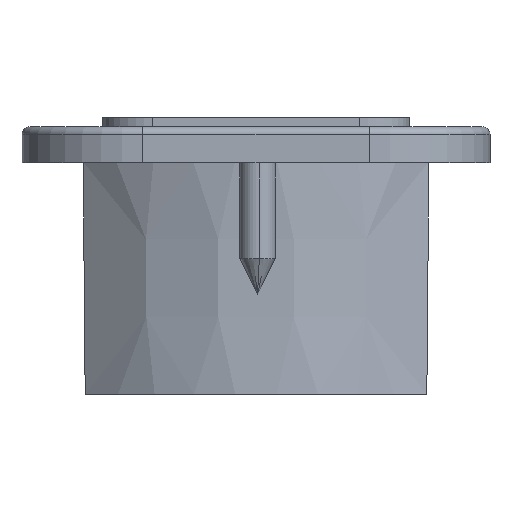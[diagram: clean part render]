
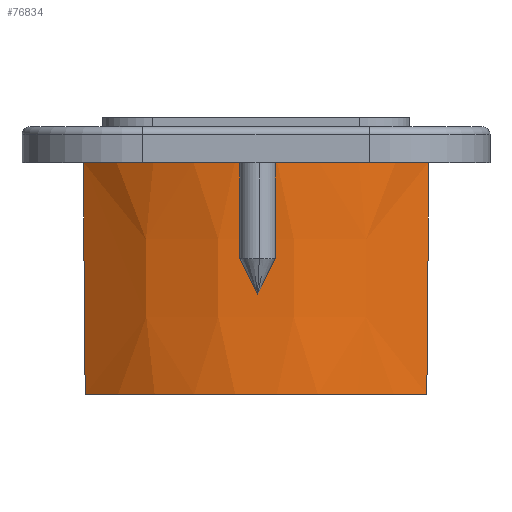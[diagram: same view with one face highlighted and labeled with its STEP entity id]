
A CAD part, front view. The second image highlights one B-rep face of the part: STEP entity #76834.
In plain terms, the highlighted conical face has half-angle 0.5 degrees and reference radius 25 mm.
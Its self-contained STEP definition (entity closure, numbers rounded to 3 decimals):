
#3816 = EDGE_CURVE ( 'NONE', #20802, #66061, #62521, .T. ) ;
#4052 = CARTESIAN_POINT ( 'NONE',  ( -16.974, -18.319, -20. ) ) ;
#4408 = CARTESIAN_POINT ( 'NONE',  ( 0., 0., 3.102 ) ) ;
#7648 = AXIS2_PLACEMENT_3D ( 'NONE', #39874, #27731, #77810 ) ;
#8864 = ORIENTED_EDGE ( 'NONE', *, *, #59384, .T. ) ;
#9732 = DIRECTION ( 'NONE',  ( -1., 0., 0. ) ) ;
#11463 = CARTESIAN_POINT ( 'NONE',  ( 17.117, -18.381, -3.599 ) ) ;
#11736 = CARTESIAN_POINT ( 'NONE',  ( 17.175, -18.407, 3.102 ) ) ;
#11923 = CARTESIAN_POINT ( 'NONE',  ( -17.058, -18.356, -10.3 ) ) ;
#12181 = CARTESIAN_POINT ( 'NONE',  ( -16.974, -18.319, -20. ) ) ;
#16272 = DIRECTION ( 'NONE',  ( 0., 0., 1. ) ) ;
#16768 = EDGE_LOOP ( 'NONE', ( #70253, #21231, #8864, #66836 ) ) ;
#20802 = VERTEX_POINT ( 'NONE', #51856 ) ;
#21231 = ORIENTED_EDGE ( 'NONE', *, *, #67603, .T. ) ;
#21692 = CONICAL_SURFACE ( 'NONE', #69023, 25., 0.009 ) ;
#27731 = DIRECTION ( 'NONE',  ( 0., 0., -1. ) ) ;
#29676 = CIRCLE ( 'NONE', #53458, 25.175 ) ;
#30073 = CARTESIAN_POINT ( 'NONE',  ( 16.974, -18.319, -20. ) ) ;
#30385 = CARTESIAN_POINT ( 'NONE',  ( -17.175, -18.407, 3.102 ) ) ;
#30810 = CARTESIAN_POINT ( 'NONE',  ( -17., -18.33, -17. ) ) ;
#36687 = CARTESIAN_POINT ( 'NONE',  ( 17., -18.33, -17. ) ) ;
#38747 = EDGE_CURVE ( 'NONE', #58217, #20802, #51027, .T. ) ;
#39874 = CARTESIAN_POINT ( 'NONE',  ( 0., 0., -20. ) ) ;
#42938 = CARTESIAN_POINT ( 'NONE',  ( -17.117, -18.381, -3.599 ) ) ;
#48162 = FACE_OUTER_BOUND ( 'NONE', #16768, .T. ) ;
#48747 = CARTESIAN_POINT ( 'NONE',  ( 16.983, -18.323, -19. ) ) ;
#49761 = CARTESIAN_POINT ( 'NONE',  ( -16.983, -18.323, -19. ) ) ;
#51027 = B_SPLINE_CURVE_WITH_KNOTS ( 'NONE', 3,
 ( #11736, #11463, #68284, #36687, #67737, #48747, #30073 ),
 .UNSPECIFIED., .F., .F.,
 ( 4, 3, 4 ),
 ( 0., 0.02, 0.023 ),
 .UNSPECIFIED. ) ;
#51856 = CARTESIAN_POINT ( 'NONE',  ( 16.974, -18.319, -20. ) ) ;
#52653 = CARTESIAN_POINT ( 'NONE',  ( 17.175, -18.407, 3.102 ) ) ;
#53359 = CARTESIAN_POINT ( 'NONE',  ( 0., 0., -17. ) ) ;
#53458 = AXIS2_PLACEMENT_3D ( 'NONE', #4408, #54880, #73564 ) ;
#54253 = B_SPLINE_CURVE_WITH_KNOTS ( 'NONE', 3,
 ( #55836, #42938, #11923, #30810, #81134, #49761, #12181 ),
 .UNSPECIFIED., .F., .F.,
 ( 4, 3, 4 ),
 ( 0., 0.02, 0.023 ),
 .UNSPECIFIED. ) ;
#54880 = DIRECTION ( 'NONE',  ( 0., 0., -1. ) ) ;
#55836 = CARTESIAN_POINT ( 'NONE',  ( -17.175, -18.407, 3.102 ) ) ;
#58217 = VERTEX_POINT ( 'NONE', #52653 ) ;
#59384 = EDGE_CURVE ( 'NONE', #65733, #66061, #54253, .T. ) ;
#62521 = CIRCLE ( 'NONE', #7648, 24.974 ) ;
#65733 = VERTEX_POINT ( 'NONE', #30385 ) ;
#66061 = VERTEX_POINT ( 'NONE', #4052 ) ;
#66836 = ORIENTED_EDGE ( 'NONE', *, *, #3816, .F. ) ;
#67603 = EDGE_CURVE ( 'NONE', #58217, #65733, #29676, .T. ) ;
#67737 = CARTESIAN_POINT ( 'NONE',  ( 16.991, -18.326, -18. ) ) ;
#68284 = CARTESIAN_POINT ( 'NONE',  ( 17.058, -18.356, -10.3 ) ) ;
#69023 = AXIS2_PLACEMENT_3D ( 'NONE', #53359, #16272, #9732 ) ;
#70253 = ORIENTED_EDGE ( 'NONE', *, *, #38747, .F. ) ;
#73564 = DIRECTION ( 'NONE',  ( 1., 0., 0. ) ) ;
#76834 = ADVANCED_FACE ( 'NONE', ( #48162 ), #21692, .T. ) ;
#77810 = DIRECTION ( 'NONE',  ( -1., 0., 0. ) ) ;
#81134 = CARTESIAN_POINT ( 'NONE',  ( -16.991, -18.326, -18. ) ) ;
